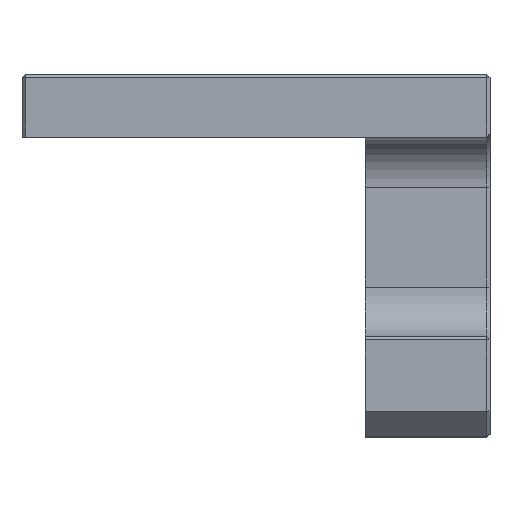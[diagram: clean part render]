
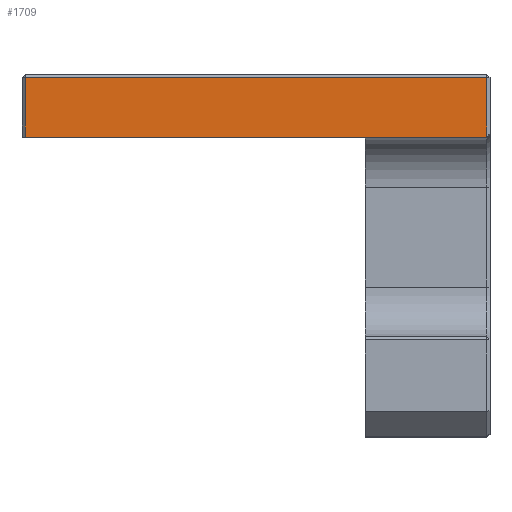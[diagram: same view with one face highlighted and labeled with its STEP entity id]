
A CAD part, top view. The second image highlights one B-rep face of the part: STEP entity #1709.
In plain terms, the highlighted planar face has unit normal (0, 0, 1).
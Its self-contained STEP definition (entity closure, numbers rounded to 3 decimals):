
#386 = DIRECTION ( 'NONE',  ( 1., 0., 0. ) ) ;
#387 = CARTESIAN_POINT ( 'NONE',  ( -75., 48., 75. ) ) ;
#510 = CARTESIAN_POINT ( 'NONE',  ( -74.5, 48., 75. ) ) ;
#519 = DIRECTION ( 'NONE',  ( 0., -1., 0. ) ) ;
#857 = LINE ( 'NONE', #387, #896 ) ;
#874 = FACE_OUTER_BOUND ( 'NONE', #3311, .T. ) ;
#896 = VECTOR ( 'NONE', #386, 1000. ) ;
#923 = VECTOR ( 'NONE', #2001, 1000. ) ;
#925 = VECTOR ( 'NONE', #2003, 1000. ) ;
#926 = LINE ( 'NONE', #2002, #923 ) ;
#928 = LINE ( 'NONE', #2005, #925 ) ;
#1207 = EDGE_CURVE ( 'NONE', #2986, #2673, #2490, .T. ) ;
#1393 = EDGE_CURVE ( 'NONE', #2673, #2657, #857, .T. ) ;
#1395 = AXIS2_PLACEMENT_3D ( 'NONE', #1966, #1959, #1958 ) ;
#1656 = EDGE_CURVE ( 'NONE', #2996, #2986, #928, .T. ) ;
#1657 = EDGE_CURVE ( 'NONE', #2657, #2996, #926, .T. ) ;
#1709 = ADVANCED_FACE ( 'NONE', ( #874 ), #1961, .T. ) ;
#1958 = DIRECTION ( 'NONE',  ( 1., 0., 0. ) ) ;
#1959 = DIRECTION ( 'NONE',  ( 0., 0., 1. ) ) ;
#1961 = PLANE ( 'NONE',  #1395 ) ;
#1966 = CARTESIAN_POINT ( 'NONE',  ( 0., 0., 75. ) ) ;
#2001 = DIRECTION ( 'NONE',  ( 0., 1., 0. ) ) ;
#2002 = CARTESIAN_POINT ( 'NONE',  ( -0.5, 58., 75. ) ) ;
#2003 = DIRECTION ( 'NONE',  ( -1., 0., 0. ) ) ;
#2005 = CARTESIAN_POINT ( 'NONE',  ( -75., 57.5, 75. ) ) ;
#2133 = CARTESIAN_POINT ( 'NONE',  ( -0.5, 57.5, 75. ) ) ;
#2135 = CARTESIAN_POINT ( 'NONE',  ( -74.5, 57.5, 75. ) ) ;
#2222 = CARTESIAN_POINT ( 'NONE',  ( -74.5, 48., 75. ) ) ;
#2237 = CARTESIAN_POINT ( 'NONE',  ( -0.5, 48., 75. ) ) ;
#2489 = VECTOR ( 'NONE', #519, 1000. ) ;
#2490 = LINE ( 'NONE', #510, #2489 ) ;
#2596 = ORIENTED_EDGE ( 'NONE', *, *, #1393, .T. ) ;
#2597 = ORIENTED_EDGE ( 'NONE', *, *, #1657, .T. ) ;
#2598 = ORIENTED_EDGE ( 'NONE', *, *, #1656, .T. ) ;
#2600 = ORIENTED_EDGE ( 'NONE', *, *, #1207, .T. ) ;
#2657 = VERTEX_POINT ( 'NONE', #2237 ) ;
#2673 = VERTEX_POINT ( 'NONE', #2222 ) ;
#2986 = VERTEX_POINT ( 'NONE', #2135 ) ;
#2996 = VERTEX_POINT ( 'NONE', #2133 ) ;
#3311 = EDGE_LOOP ( 'NONE', ( #2596, #2597, #2598, #2600 ) ) ;
